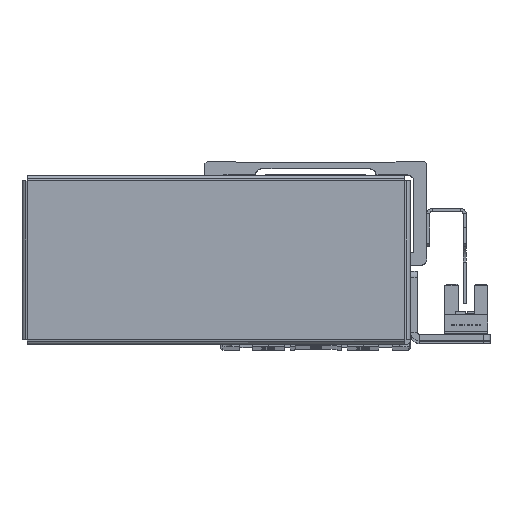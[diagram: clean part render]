
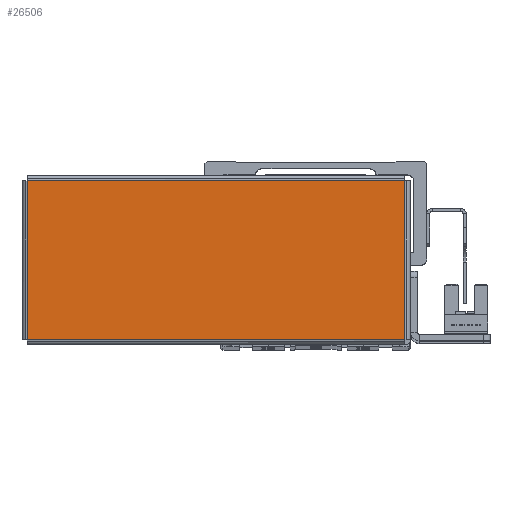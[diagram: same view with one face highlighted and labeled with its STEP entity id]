
A CAD part, top view. The second image highlights one B-rep face of the part: STEP entity #26506.
In plain terms, the highlighted planar face has unit normal (0, 0, 1) as drawn and (0, 0, -1) by its records, which use the part's own axes.
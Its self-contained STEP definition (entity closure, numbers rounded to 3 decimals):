
#566 = FACE_OUTER_BOUND ( 'NONE', #24068, .T. ) ;
#4807 = DIRECTION ( 'NONE',  ( 0., -1., 0. ) ) ;
#4839 = CARTESIAN_POINT ( 'NONE',  ( 59.513, 25.043, -1. ) ) ;
#12603 = CARTESIAN_POINT ( 'NONE',  ( -59.513, -25.013, -1. ) ) ;
#12619 = CARTESIAN_POINT ( 'NONE',  ( 59.513, -25.013, -1. ) ) ;
#12628 = CARTESIAN_POINT ( 'NONE',  ( 59.513, 25.013, -1. ) ) ;
#12676 = CARTESIAN_POINT ( 'NONE',  ( -59.513, 25.013, -1. ) ) ;
#13575 = DIRECTION ( 'NONE',  ( 1., 0., 0. ) ) ;
#13583 = CARTESIAN_POINT ( 'NONE',  ( -59.543, 25.013, -1. ) ) ;
#13602 = CARTESIAN_POINT ( 'NONE',  ( -59.513, -25.043, -1. ) ) ;
#13604 = DIRECTION ( 'NONE',  ( 0., 1., 0. ) ) ;
#13714 = CARTESIAN_POINT ( 'NONE',  ( 59.543, -25.013, -1. ) ) ;
#13735 = DIRECTION ( 'NONE',  ( -1., 0., 0. ) ) ;
#15627 = VERTEX_POINT ( 'NONE', #12628 ) ;
#15671 = VERTEX_POINT ( 'NONE', #12603 ) ;
#15687 = VERTEX_POINT ( 'NONE', #12619 ) ;
#15699 = VERTEX_POINT ( 'NONE', #12676 ) ;
#18117 = LINE ( 'NONE', #13602, #18134 ) ;
#18130 = VECTOR ( 'NONE', #13575, 1000. ) ;
#18134 = VECTOR ( 'NONE', #13604, 1000. ) ;
#18147 = LINE ( 'NONE', #13583, #18130 ) ;
#18177 = VECTOR ( 'NONE', #13735, 1000. ) ;
#18216 = LINE ( 'NONE', #13714, #18177 ) ;
#18233 = LINE ( 'NONE', #4839, #18234 ) ;
#18234 = VECTOR ( 'NONE', #4807, 1000. ) ;
#21276 = ORIENTED_EDGE ( 'NONE', *, *, #24997, .T. ) ;
#21304 = ORIENTED_EDGE ( 'NONE', *, *, #25005, .T. ) ;
#21317 = ORIENTED_EDGE ( 'NONE', *, *, #25085, .T. ) ;
#21323 = ORIENTED_EDGE ( 'NONE', *, *, #25048, .T. ) ;
#24068 = EDGE_LOOP ( 'NONE', ( #21317, #21323, #21304, #21276 ) ) ;
#24997 = EDGE_CURVE ( 'NONE', #15699, #15627, #18147, .T. ) ;
#25005 = EDGE_CURVE ( 'NONE', #15671, #15699, #18117, .T. ) ;
#25048 = EDGE_CURVE ( 'NONE', #15687, #15671, #18216, .T. ) ;
#25085 = EDGE_CURVE ( 'NONE', #15627, #15687, #18233, .T. ) ;
#26506 = ADVANCED_FACE ( 'NONE', ( #566 ), #27416, .F. ) ;
#27338 = DIRECTION ( 'NONE',  ( 1., 0., 0. ) ) ;
#27343 = CARTESIAN_POINT ( 'NONE',  ( 0., 0., -1. ) ) ;
#27378 = DIRECTION ( 'NONE',  ( 0., 0., 1. ) ) ;
#27416 = PLANE ( 'NONE',  #30203 ) ;
#30203 = AXIS2_PLACEMENT_3D ( 'NONE', #27343, #27378, #27338 ) ;
